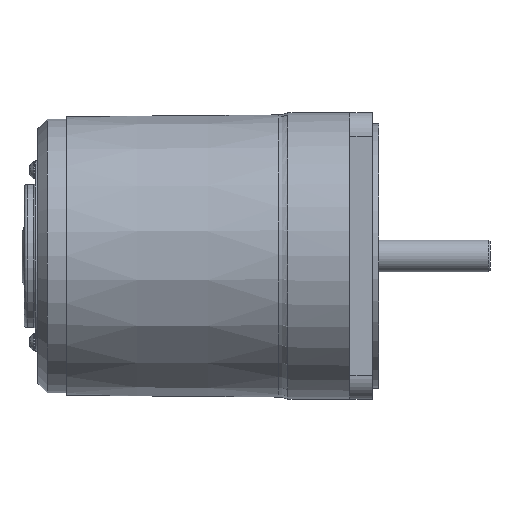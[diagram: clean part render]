
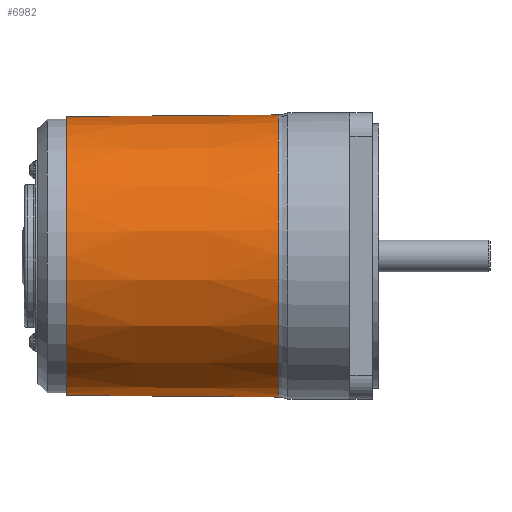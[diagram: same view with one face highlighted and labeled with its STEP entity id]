
A CAD part, top view. The second image highlights one B-rep face of the part: STEP entity #6982.
In plain terms, the highlighted conical face has half-angle 0.48 degrees and reference radius 44.029 mm.
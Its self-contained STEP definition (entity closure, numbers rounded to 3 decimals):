
#14=CONICAL_SURFACE('',#7472,44.029,0.48);
#86=FACE_BOUND('',#941,.T.);
#499=FACE_OUTER_BOUND('',#940,.T.);
#940=EDGE_LOOP('',(#4848,#4849,#4850,#4851,#4852,#4853));
#941=EDGE_LOOP('',(#4854));
#1370=B_SPLINE_CURVE_WITH_KNOTS('',3,(#11369,#11370,#11371,#11372),
 .UNSPECIFIED.,.F.,.F.,(4,4),(3.648,3.698),
 .UNSPECIFIED.);
#1371=B_SPLINE_CURVE_WITH_KNOTS('',3,(#11373,#11374,#11375,#11376),
 .UNSPECIFIED.,.F.,.F.,(4,4),(-6.954,-3.698),
 .UNSPECIFIED.);
#1372=B_SPLINE_CURVE_WITH_KNOTS('',3,(#11378,#11379,#11380,#11381),
 .UNSPECIFIED.,.F.,.F.,(4,4),(-3.256,0.),.UNSPECIFIED.);
#1373=B_SPLINE_CURVE_WITH_KNOTS('',3,(#11383,#11384,#11385,#11386),
 .UNSPECIFIED.,.F.,.F.,(4,4),(3.256,3.306),
 .UNSPECIFIED.);
#1506=CIRCLE('',#7455,43.75);
#1516=CIRCLE('',#7471,44.308);
#1517=CIRCLE('',#7473,44.031);
#2894=VERTEX_POINT('',#11245);
#2905=VERTEX_POINT('',#11306);
#2917=VERTEX_POINT('',#11359);
#2918=VERTEX_POINT('',#11367);
#2919=VERTEX_POINT('',#11368);
#2920=VERTEX_POINT('',#11377);
#2921=VERTEX_POINT('',#11382);
#3618=EDGE_CURVE('',#2894,#2894,#1506,.T.);
#3644=EDGE_CURVE('',#2905,#2917,#1516,.T.);
#3645=EDGE_CURVE('',#2918,#2919,#1370,.T.);
#3646=EDGE_CURVE('',#2917,#2919,#1371,.T.);
#3647=EDGE_CURVE('',#2920,#2905,#1372,.T.);
#3648=EDGE_CURVE('',#2920,#2921,#1373,.T.);
#3649=EDGE_CURVE('',#2918,#2921,#1517,.T.);
#4848=ORIENTED_EDGE('',*,*,#3645,.T.);
#4849=ORIENTED_EDGE('',*,*,#3646,.F.);
#4850=ORIENTED_EDGE('',*,*,#3644,.F.);
#4851=ORIENTED_EDGE('',*,*,#3647,.F.);
#4852=ORIENTED_EDGE('',*,*,#3648,.T.);
#4853=ORIENTED_EDGE('',*,*,#3649,.F.);
#4854=ORIENTED_EDGE('',*,*,#3618,.T.);
#6982=ADVANCED_FACE('',(#499,#86),#14,.T.);
#7455=AXIS2_PLACEMENT_3D('',#11246,#8400,#8401);
#7471=AXIS2_PLACEMENT_3D('',#11365,#8439,#8440);
#7472=AXIS2_PLACEMENT_3D('',#11366,#8441,#8442);
#7473=AXIS2_PLACEMENT_3D('',#11387,#8443,#8444);
#8400=DIRECTION('center_axis',(1.,0.,0.));
#8401=DIRECTION('ref_axis',(0.,1.,0.));
#8439=DIRECTION('center_axis',(1.,0.,0.));
#8440=DIRECTION('ref_axis',(0.,1.,0.));
#8441=DIRECTION('center_axis',(1.,0.,0.));
#8442=DIRECTION('ref_axis',(0.,1.,0.));
#8443=DIRECTION('center_axis',(1.,0.,0.));
#8444=DIRECTION('ref_axis',(0.,0.,-1.));
#11245=CARTESIAN_POINT('',(9.,43.75,0.));
#11246=CARTESIAN_POINT('Origin',(9.,0.,
0.));
#11306=CARTESIAN_POINT('',(75.559,29.222,-33.306));
#11359=CARTESIAN_POINT('',(75.559,-29.222,-33.306));
#11365=CARTESIAN_POINT('Origin',(75.559,0.,
0.));
#11366=CARTESIAN_POINT('Origin',(42.279,0.,
0.));
#11367=CARTESIAN_POINT('',(42.504,-29.21,-32.947));
#11368=CARTESIAN_POINT('',(43.,-29.21,-32.952));
#11369=CARTESIAN_POINT('Ctrl Pts',(42.504,-29.21,-32.947));
#11370=CARTESIAN_POINT('Ctrl Pts',(42.669,-29.21,-32.949));
#11371=CARTESIAN_POINT('Ctrl Pts',(42.835,-29.21,-32.95));
#11372=CARTESIAN_POINT('Ctrl Pts',(43.,-29.21,-32.952));
#11373=CARTESIAN_POINT('Ctrl Pts',(75.559,-29.222,-33.306));
#11374=CARTESIAN_POINT('Ctrl Pts',(64.706,-29.218,-33.188));
#11375=CARTESIAN_POINT('Ctrl Pts',(53.853,-29.214,-33.07));
#11376=CARTESIAN_POINT('Ctrl Pts',(43.,-29.21,-32.952));
#11377=CARTESIAN_POINT('',(43.,29.21,-32.952));
#11378=CARTESIAN_POINT('Ctrl Pts',(43.,29.21,-32.952));
#11379=CARTESIAN_POINT('Ctrl Pts',(53.853,29.214,-33.07));
#11380=CARTESIAN_POINT('Ctrl Pts',(64.706,29.218,-33.188));
#11381=CARTESIAN_POINT('Ctrl Pts',(75.559,29.222,-33.306));
#11382=CARTESIAN_POINT('',(42.504,29.21,-32.947));
#11383=CARTESIAN_POINT('Ctrl Pts',(43.,29.21,-32.952));
#11384=CARTESIAN_POINT('Ctrl Pts',(42.835,29.21,-32.95));
#11385=CARTESIAN_POINT('Ctrl Pts',(42.669,29.21,-32.949));
#11386=CARTESIAN_POINT('Ctrl Pts',(42.504,29.21,-32.947));
#11387=CARTESIAN_POINT('Origin',(42.504,0.,
0.));
